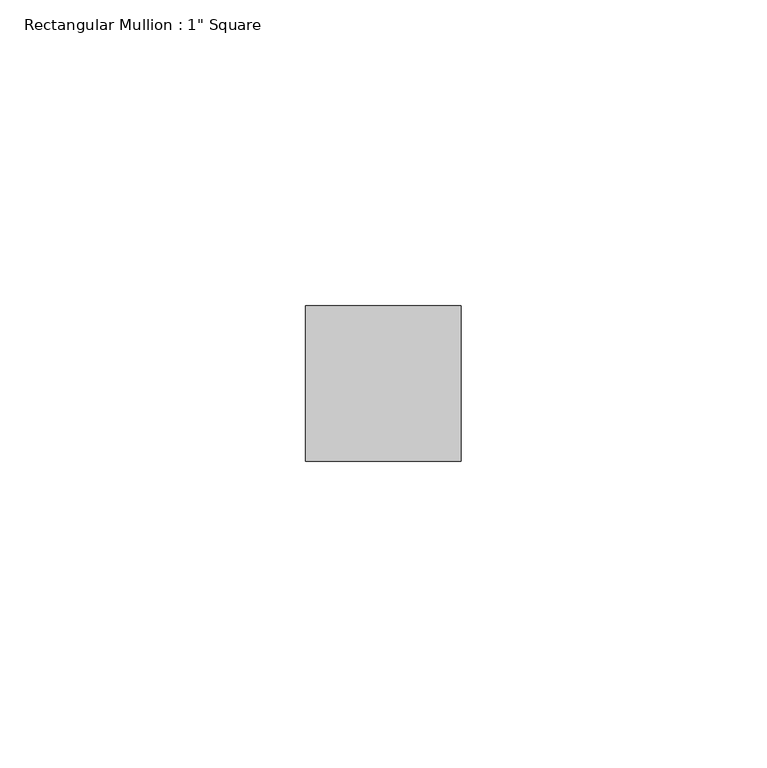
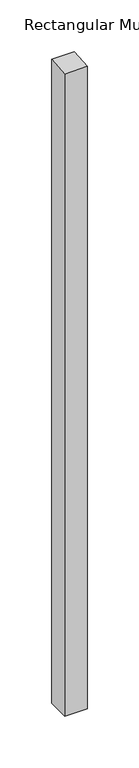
"""IFC4 building model written with IfcOpenShell, lengths in millimetres: member geometry."""

from ifc_helpers import new_model, si_unit, origin, place, context, project, spatial, faceted_brep, source, transform, mapped, element, save


def member_e03b8e9c(model_context):
    return source(origin(), model_context, "Body", "Brep", [
        faceted_brep([(0.0, 12.7, -762.0), (0.0, -12.7, -762.0), (-25.4, -12.7, -762.0), (-25.4, 12.7, -762.0), (-25.4, 12.7, 0.5333048), (0.0, 12.7, 1.0323042), (-25.4, -12.7, -1.5313036), (0.0, -12.7, -1.0323042)], [[[0, 1, 2, 3]], [[4, 5, 0, 3]], [[6, 4, 3, 2]], [[7, 6, 2, 1]], [[5, 7, 1, 0]], [[5, 4, 6, 7]]]),
    ])


if __name__ == "__main__":
    model = new_model("IFC4")
    model_context = context("Model", 3, world=origin())
    ifc_project = project(units=[si_unit("LENGTHUNIT", "METRE", prefix="MILLI")], contexts=[model_context])
    site = spatial("IfcSite", under=ifc_project)
    building = spatial("IfcBuilding", under=site)
    placement = place(None, origin())
    member_shape = member_e03b8e9c(model_context)
    element("IfcMember", 1, ObjectType="Rectangular Mullion : 1\" Square", at=placement, inside=building, context=model_context, shape_type="MappedRepresentation", body=[
        mapped(member_shape, transform((0.0, 0.0, 0.0), x_axis=(1.0, 0.0, 0.0), y_axis=(0.0, 1.0, 0.0), z_axis=(0.0, 0.0, 1.0))),
    ])
    save(model, "model.ifc")
